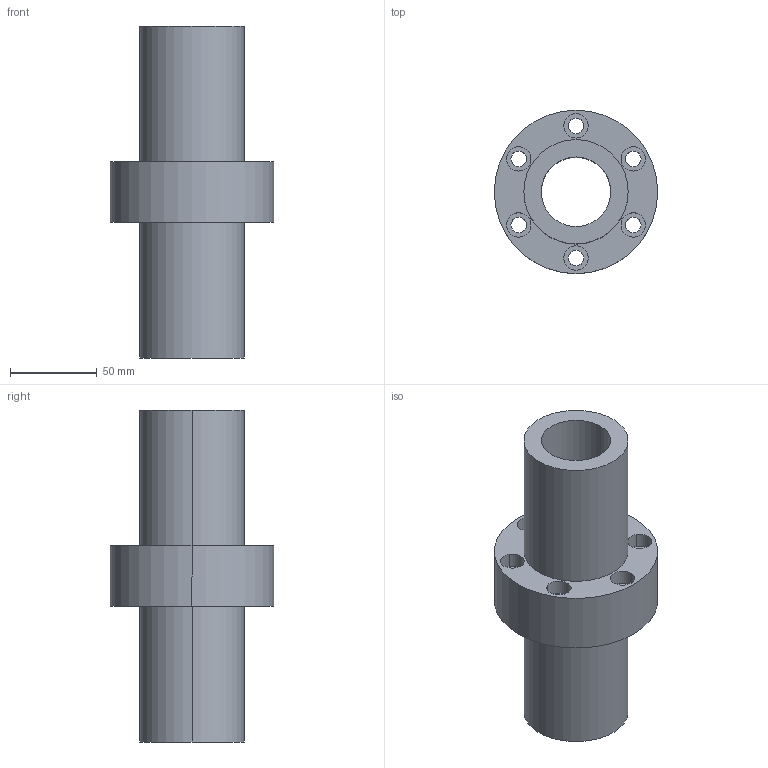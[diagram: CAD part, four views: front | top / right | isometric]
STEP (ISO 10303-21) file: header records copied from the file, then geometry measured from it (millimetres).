
FILE_DESCRIPTION((''),'2;1');
FILE_NAME('40-8T6','2008-04-07T',('yanyu'),(''),'PRO/ENGINEER BY PARAMETRIC TECHNOLOGY CORPORATION, 2005070','PRO/ENGINEER BY PARAMETRIC TECHNOLOGY CORPORATION, 2005070','');
FILE_SCHEMA(('CONFIG_CONTROL_DESIGN'));
Length unit declared in the file: millimetre
Products named in the file (1): 40-8T6
Bounding box: 94 x 94 x 191 mm (x, y, z)
Volume: 425988.2 mm3; surface area: 81084.5 mm2
Topology: 1 solids, 1 shells, 42 faces, 104 edges, 72 vertices
Faces by surface type: cylinder 32, plane 10
Entity records: 1370 total; most frequent: DIRECTION 260, CARTESIAN_POINT 218, ORIENTED_EDGE 208, AXIS2_PLACEMENT_3D 114, EDGE_CURVE 104, VERTEX_POINT 72, CIRCLE 72, EDGE_LOOP 64
